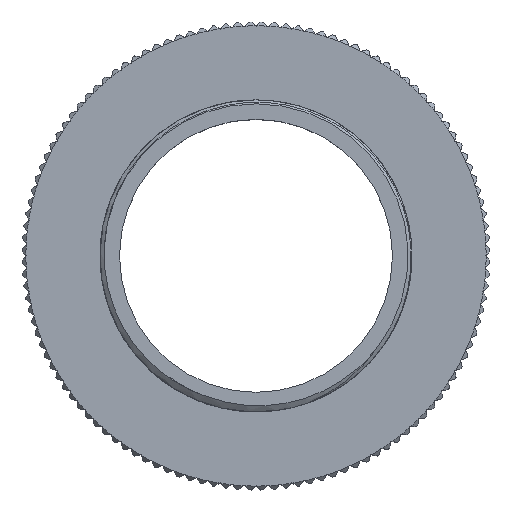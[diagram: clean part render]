
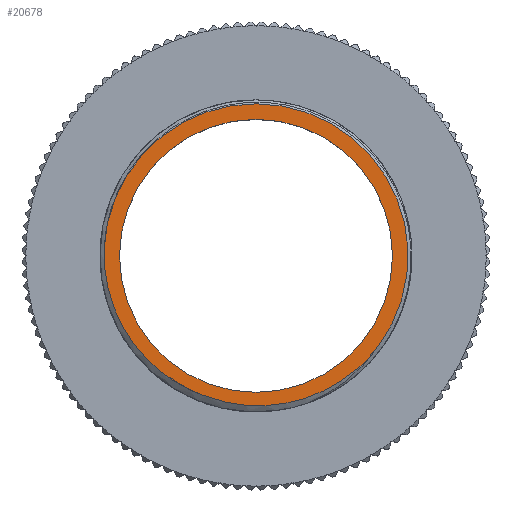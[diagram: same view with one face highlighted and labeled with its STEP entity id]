
A CAD part, top view. The second image highlights one B-rep face of the part: STEP entity #20678.
In plain terms, the highlighted planar face has unit normal (0, 0, 1).
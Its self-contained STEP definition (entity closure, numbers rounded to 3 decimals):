
#9878=CARTESIAN_POINT('',(0.349,0.594,
3.222));
#9879=DIRECTION('',(0.,0.,-1.));
#9880=DIRECTION('',(0.,1.,0.));
#9881=AXIS2_PLACEMENT_3D('',#9878,#9879,#9880);
#9883=CARTESIAN_POINT('',(0.349,0.594,
3.222));
#9884=DIRECTION('',(0.,0.,-1.));
#9885=DIRECTION('',(0.,-1.,0.));
#9886=AXIS2_PLACEMENT_3D('',#9883,#9884,#9885);
#9888=CARTESIAN_POINT('',(-2.903,-8.555,
3.222));
#9889=CARTESIAN_POINT('',(-2.468,-8.718,
3.222));
#9890=CARTESIAN_POINT('',(-1.583,-8.977,
3.222));
#9891=CARTESIAN_POINT('',(-0.21,-9.177,
3.222));
#9892=CARTESIAN_POINT('',(1.188,-9.179,3.222));
#9893=CARTESIAN_POINT('',(2.567,-8.983,3.222));
#9894=CARTESIAN_POINT('',(3.91,-8.593,3.222));
#9895=CARTESIAN_POINT('',(5.188,-8.013,3.222));
#9896=CARTESIAN_POINT('',(6.365,-7.263,3.222));
#9897=CARTESIAN_POINT('',(7.438,-6.342,3.222));
#9898=CARTESIAN_POINT('',(8.051,-5.642,3.222));
#9899=CARTESIAN_POINT('',(8.335,-5.268,3.222));
#9901=CARTESIAN_POINT('',(-9.544,1.089,3.222));
#9902=CARTESIAN_POINT('',(-9.56,0.619,
3.222));
#9903=CARTESIAN_POINT('',(-9.527,-0.311,
3.222));
#9904=CARTESIAN_POINT('',(-9.276,-1.703,
3.222));
#9905=CARTESIAN_POINT('',(-8.837,-3.025,
3.222));
#9906=CARTESIAN_POINT('',(-8.211,-4.284,
3.222));
#9907=CARTESIAN_POINT('',(-7.416,-5.433,
3.222));
#9908=CARTESIAN_POINT('',(-6.471,-6.455,
3.222));
#9909=CARTESIAN_POINT('',(-5.385,-7.337,
3.222));
#9910=CARTESIAN_POINT('',(-4.195,-8.048,
3.222));
#9911=CARTESIAN_POINT('',(-3.344,-8.406,
3.222));
#9912=CARTESIAN_POINT('',(-2.903,-8.555,
3.222));
#10004=CARTESIAN_POINT('',(0.349,0.594,
3.222));
#10005=DIRECTION('',(0.,0.,1.));
#10006=DIRECTION('',(0.806,-0.592,0.));
#10007=AXIS2_PLACEMENT_3D('',#10004,#10005,#10006);
#10044=CARTESIAN_POINT('',(8.335,-5.268,
3.222));
#10542=CARTESIAN_POINT('',(0.349,-8.296,
3.222));
#10543=CARTESIAN_POINT('',(0.349,9.484,
3.222));
#10544=VERTEX_POINT('',#10542);
#10545=VERTEX_POINT('',#10543);
#10578=VERTEX_POINT('',#10044);
#10586=VERTEX_POINT('',#9888);
#10587=VERTEX_POINT('',#9901);
#20661=CARTESIAN_POINT('',(0.349,9.484,
3.222));
#20662=DIRECTION('',(0.,0.,-1.));
#20663=DIRECTION('',(0.,1.,0.));
#20664=AXIS2_PLACEMENT_3D('',#20661,#20662,#20663);
#20665=PLANE('',#20664);
#20667=ORIENTED_EDGE('',*,*,#20666,.F.);
#20669=ORIENTED_EDGE('',*,*,#20668,.F.);
#20671=ORIENTED_EDGE('',*,*,#20670,.F.);
#20672=EDGE_LOOP('',(#20667,#20669,#20671));
#20673=FACE_OUTER_BOUND('',#20672,.F.);
#20674=ORIENTED_EDGE('',*,*,#20640,.F.);
#20675=ORIENTED_EDGE('',*,*,#20655,.F.);
#20676=EDGE_LOOP('',(#20674,#20675));
#20677=FACE_BOUND('',#20676,.F.);
#20678=ADVANCED_FACE('',(#20673,#20677),#20665,.F.);
#9882=CIRCLE('',#9881,8.89);
#9887=CIRCLE('',#9886,8.89);
#9900=B_SPLINE_CURVE_WITH_KNOTS('',3,(#9888,#9889,#9890,#9891,#9892,#9893,#9894,
#9895,#9896,#9897,#9898,#9899),.UNSPECIFIED.,.F.,.F.,(4,1,1,1,1,1,1,1,1,4),
(0.,0.111,0.222,0.333,0.444,
0.556,0.667,0.778,0.889,1.),
.UNSPECIFIED.);
#9913=B_SPLINE_CURVE_WITH_KNOTS('',3,(#9901,#9902,#9903,#9904,#9905,#9906,#9907,
#9908,#9909,#9910,#9911,#9912),.UNSPECIFIED.,.F.,.F.,(4,1,1,1,1,1,1,1,1,4),
(0.,0.111,0.222,0.333,0.444,
0.556,0.667,0.778,0.889,1.),
.UNSPECIFIED.);
#10008=CIRCLE('',#10007,9.906);
#20640=EDGE_CURVE('',#10545,#10544,#9882,.T.);
#20655=EDGE_CURVE('',#10544,#10545,#9887,.T.);
#20666=EDGE_CURVE('',#10586,#10578,#9900,.T.);
#20668=EDGE_CURVE('',#10587,#10586,#9913,.T.);
#20670=EDGE_CURVE('',#10578,#10587,#10008,.T.);
